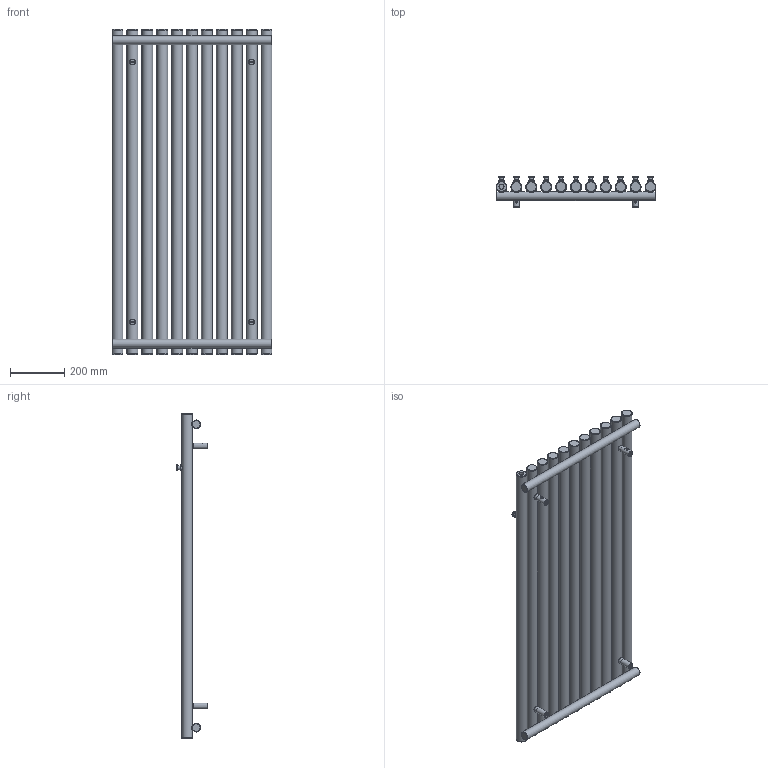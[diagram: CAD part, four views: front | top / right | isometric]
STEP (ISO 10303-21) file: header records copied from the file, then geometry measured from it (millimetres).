
FILE_DESCRIPTION(/* description */ (''),/* implementation_level */ '2;1');
FILE_NAME(/* name */ 'Z:\R\G\P\RGP116 - Grzejniki Geyser\Work\Inventor\Circolo (Rolo V, Rolo H)\ROLO-HANGER\Marketing\Bryły\Zaokrąglone\WGROW120059-SX-CK-(Z).stp',/* time_stamp */ '2024-02-02T13:26:23+01:00',/* author */ ('NowAd'),/* organization */ (''),/* preprocessor_version */ 'ST-DEVELOPER v17.2',/* originating_system */ 'Autodesk Inventor 2019',/* authorisation */ '');
FILE_SCHEMA (('AUTOMOTIVE_DESIGN { 1 0 10303 214 3 1 1 }'));
Length unit declared in the file: millimetre
Products named in the file (3): WGROR120059-SX-CK-(Z); PGROR120059-SX-CK-(K); CK-V-fi40 marketing
Assembly tree (5 placements, depth 2):
  WGROR120059-SX-CK-(Z)
    PGROR120059-SX-CK-(K)
    CK-V-fi40 marketing  x4
Bounding box: 590 x 116.5 x 1200 mm (x, y, z)
Volume: 17625904.7 mm3; surface area: 1840696.2 mm2
Topology: 5 solids, 5 shells, 493 faces, 1246 edges, 851 vertices
Faces by surface type: plane 178, cylinder 113, torus 109, cone 60, bspline 33
Full cylindrical faces by diameter (mm): 4.134 x4, 4.48 x4, 6.4 x4, 10 x4, 12 x4, 14 x11, 15.834 x4, 16 x4, 18.631 x3, 20 x22, 22 x4, 32 x2, 40 x11
Entity records: 15482 total; most frequent: CARTESIAN_POINT 7655, DIRECTION 1733, ORIENTED_EDGE 1552, AXIS2_PLACEMENT_3D 804, EDGE_CURVE 776, VERTEX_POINT 544, CIRCLE 511, EDGE_LOOP 406
